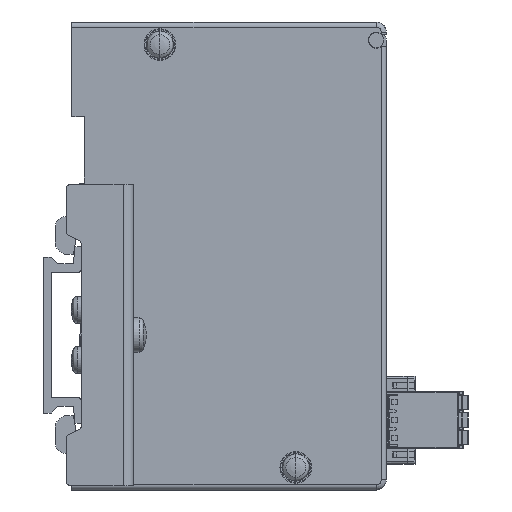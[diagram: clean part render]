
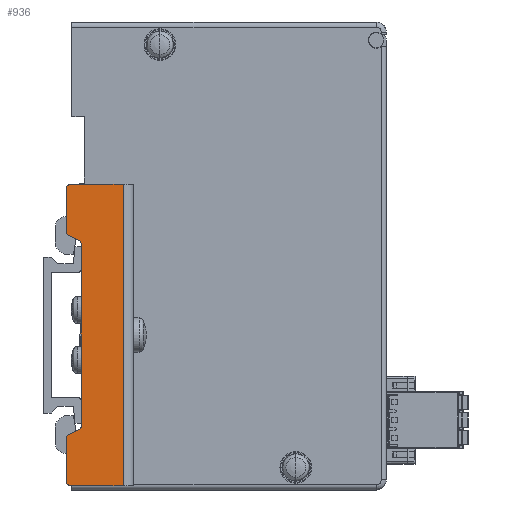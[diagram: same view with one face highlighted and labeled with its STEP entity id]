
A CAD part, left-side view. The second image highlights one B-rep face of the part: STEP entity #936.
In plain terms, the highlighted planar face has unit normal (-1, 0, 0).
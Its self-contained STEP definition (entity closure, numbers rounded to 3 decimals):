
#936=ADVANCED_FACE('',(#8923),#8922,.T.);
#8922=PLANE('',#15089);
#8923=FACE_OUTER_BOUND('',#15090,.T.);
#15086=CARTESIAN_POINT('',(-13.,-3.37,-36.));
#15087=DIRECTION('',(-1.,0.,0.));
#15088=DIRECTION('',(0.,-1.,0.));
#15089=AXIS2_PLACEMENT_3D('',#15086,#15087,#15088);
#15090=EDGE_LOOP('',(#19974,#19975,#19976,#19977,#19978,#19979,#19980,#19981,#19982,#19983,#19984,#19985,#19986,#19987));
#19974=ORIENTED_EDGE('',*,*,#22689,.F.);
#19975=ORIENTED_EDGE('',*,*,#22690,.T.);
#19976=ORIENTED_EDGE('',*,*,#22691,.T.);
#19977=ORIENTED_EDGE('',*,*,#22692,.T.);
#19978=ORIENTED_EDGE('',*,*,#22693,.F.);
#19979=ORIENTED_EDGE('',*,*,#22694,.T.);
#19980=ORIENTED_EDGE('',*,*,#22695,.T.);
#19981=ORIENTED_EDGE('',*,*,#22696,.T.);
#19982=ORIENTED_EDGE('',*,*,#22697,.T.);
#19983=ORIENTED_EDGE('',*,*,#22698,.T.);
#19984=ORIENTED_EDGE('',*,*,#22699,.T.);
#19985=ORIENTED_EDGE('',*,*,#22700,.F.);
#19986=ORIENTED_EDGE('',*,*,#22701,.T.);
#19987=ORIENTED_EDGE('',*,*,#22702,.F.);
#22689=EDGE_CURVE('',#36523,#36524,#36525,.T.);
#22690=EDGE_CURVE('',#36523,#36531,#36532,.T.);
#22691=EDGE_CURVE('',#36531,#36538,#36539,.T.);
#22692=EDGE_CURVE('',#36538,#36545,#36546,.T.);
#22693=EDGE_CURVE('',#36552,#36545,#36553,.T.);
#22694=EDGE_CURVE('',#36552,#36559,#36560,.T.);
#22695=EDGE_CURVE('',#36559,#36566,#36567,.T.);
#22696=EDGE_CURVE('',#36566,#36573,#36574,.T.);
#22697=EDGE_CURVE('',#36573,#36580,#36581,.T.);
#22698=EDGE_CURVE('',#36580,#36587,#36588,.T.);
#22699=EDGE_CURVE('',#36587,#36594,#36595,.T.);
#22700=EDGE_CURVE('',#36601,#36594,#36602,.T.);
#22701=EDGE_CURVE('',#36601,#36608,#36609,.T.);
#22702=EDGE_CURVE('',#36524,#36608,#36615,.T.);
#36523=VERTEX_POINT('',#46680);
#36524=VERTEX_POINT('',#46681);
#36525=LINE('',#46682,#46683);
#36531=VERTEX_POINT('',#46685);
#36532=CIRCLE('',#46689,1.);
#36538=VERTEX_POINT('',#46690);
#36539=LINE('',#46691,#46692);
#36545=VERTEX_POINT('',#46694);
#36546=CIRCLE('',#46698,1.);
#36552=VERTEX_POINT('',#46699);
#36553=LINE('',#46700,#46701);
#36559=VERTEX_POINT('',#46703);
#36560=LINE('',#46704,#46705);
#36566=VERTEX_POINT('',#46707);
#36567=LINE('',#46708,#46709);
#36573=VERTEX_POINT('',#46711);
#36574=CIRCLE('',#46715,1.);
#36580=VERTEX_POINT('',#46716);
#36581=LINE('',#46717,#46718);
#36587=VERTEX_POINT('',#46720);
#36588=CIRCLE('',#46724,1.);
#36594=VERTEX_POINT('',#46725);
#36595=LINE('',#46726,#46727);
#36601=VERTEX_POINT('',#46729);
#36602=CIRCLE('',#46733,1.);
#36608=VERTEX_POINT('',#46734);
#36609=LINE('',#46735,#46736);
#36615=CIRCLE('',#46741,1.);
#46680=CARTESIAN_POINT('',(-13.,-5.077,-19.73));
#46681=CARTESIAN_POINT('',(-13.,-6.923,-18.869));
#46682=CARTESIAN_POINT('',(-13.,-5.077,-19.73));
#46683=VECTOR('',#46684,2.036);
#46684=DIRECTION('',(0.,-0.906,0.423));
#46685=CARTESIAN_POINT('',(-13.,-4.5,-20.636));
#46686=CARTESIAN_POINT('',(-13.,-5.5,-20.636));
#46687=DIRECTION('',(-1.,0.,0.));
#46688=DIRECTION('',(0.,0.,1.));
#46689=AXIS2_PLACEMENT_3D('',#46686,#46687,#46688);
#46690=CARTESIAN_POINT('',(-13.,-4.5,-29.));
#46691=CARTESIAN_POINT('',(-13.,-4.5,-20.636));
#46692=VECTOR('',#46693,8.364);
#46693=DIRECTION('',(0.,0.,-1.));
#46694=CARTESIAN_POINT('',(-13.,-5.5,-30.));
#46695=CARTESIAN_POINT('',(-13.,-5.5,-29.));
#46696=DIRECTION('',(-1.,0.,0.));
#46697=DIRECTION('',(0.,0.,1.));
#46698=AXIS2_PLACEMENT_3D('',#46695,#46696,#46697);
#46699=CARTESIAN_POINT('',(-13.,-15.8,-30.));
#46700=CARTESIAN_POINT('',(-13.,-15.8,-30.));
#46701=VECTOR('',#46702,10.3);
#46702=DIRECTION('',(0.,1.,0.));
#46703=CARTESIAN_POINT('',(-13.,-15.8,30.));
#46704=CARTESIAN_POINT('',(-13.,-15.8,-30.));
#46705=VECTOR('',#46706,60.);
#46706=DIRECTION('',(0.,0.,1.));
#46707=CARTESIAN_POINT('',(-13.,-5.5,30.));
#46708=CARTESIAN_POINT('',(-13.,-15.8,30.));
#46709=VECTOR('',#46710,10.3);
#46710=DIRECTION('',(0.,1.,0.));
#46711=CARTESIAN_POINT('',(-13.,-4.5,29.));
#46712=CARTESIAN_POINT('',(-13.,-5.5,29.));
#46713=DIRECTION('',(-1.,0.,0.));
#46714=DIRECTION('',(0.,0.,1.));
#46715=AXIS2_PLACEMENT_3D('',#46712,#46713,#46714);
#46716=CARTESIAN_POINT('',(-13.,-4.5,20.636));
#46717=CARTESIAN_POINT('',(-13.,-4.5,29.));
#46718=VECTOR('',#46719,8.364);
#46719=DIRECTION('',(0.,0.,-1.));
#46720=CARTESIAN_POINT('',(-13.,-5.077,19.73));
#46721=CARTESIAN_POINT('',(-13.,-5.5,20.636));
#46722=DIRECTION('',(-1.,0.,0.));
#46723=DIRECTION('',(0.,0.,1.));
#46724=AXIS2_PLACEMENT_3D('',#46721,#46722,#46723);
#46725=CARTESIAN_POINT('',(-13.,-6.923,18.869));
#46726=CARTESIAN_POINT('',(-13.,-5.077,19.73));
#46727=VECTOR('',#46728,2.036);
#46728=DIRECTION('',(0.,-0.906,-0.423));
#46729=CARTESIAN_POINT('',(-13.,-7.5,17.963));
#46730=CARTESIAN_POINT('',(-13.,-6.5,17.963));
#46731=DIRECTION('',(-1.,0.,0.));
#46732=DIRECTION('',(0.,0.,1.));
#46733=AXIS2_PLACEMENT_3D('',#46730,#46731,#46732);
#46734=CARTESIAN_POINT('',(-13.,-7.5,-17.963));
#46735=CARTESIAN_POINT('',(-13.,-7.5,17.963));
#46736=VECTOR('',#46737,35.926);
#46737=DIRECTION('',(0.,0.,-1.));
#46738=CARTESIAN_POINT('',(-13.,-6.5,-17.963));
#46739=DIRECTION('',(-1.,0.,0.));
#46740=DIRECTION('',(0.,0.,1.));
#46741=AXIS2_PLACEMENT_3D('',#46738,#46739,#46740);
